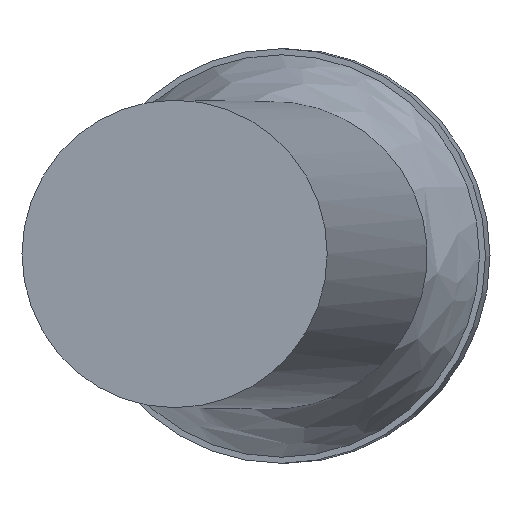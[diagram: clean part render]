
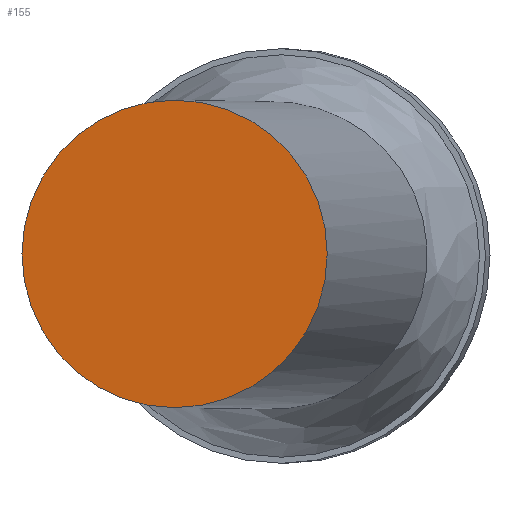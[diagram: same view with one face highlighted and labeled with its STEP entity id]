
A CAD part, top view. The second image highlights one B-rep face of the part: STEP entity #155.
In plain terms, the highlighted planar face has unit normal (-0.122, 0, 0.993).
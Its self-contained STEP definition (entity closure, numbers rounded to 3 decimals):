
#31=PLANE('',#192);
#39=FACE_OUTER_BOUND('',#50,.T.);
#50=EDGE_LOOP('',(#132));
#63=CIRCLE('',#191,8.9);
#83=VERTEX_POINT('',#490);
#101=EDGE_CURVE('',#83,#83,#63,.T.);
#132=ORIENTED_EDGE('',*,*,#101,.F.);
#155=ADVANCED_FACE('',(#39),#31,.T.);
#191=AXIS2_PLACEMENT_3D('',#492,#219,#220);
#192=AXIS2_PLACEMENT_3D('',#493,#221,#222);
#219=DIRECTION('center_axis',(0.122,0.,-0.993));
#220=DIRECTION('ref_axis',(0.993,0.,0.122));
#221=DIRECTION('center_axis',(-0.122,0.,0.993));
#222=DIRECTION('ref_axis',(0.993,0.,0.122));
#490=CARTESIAN_POINT('',(34.72,0.,44.936));
#492=CARTESIAN_POINT('Origin',(43.553,0.,46.021));
#493=CARTESIAN_POINT('Origin',(53.082,0.,47.19));
